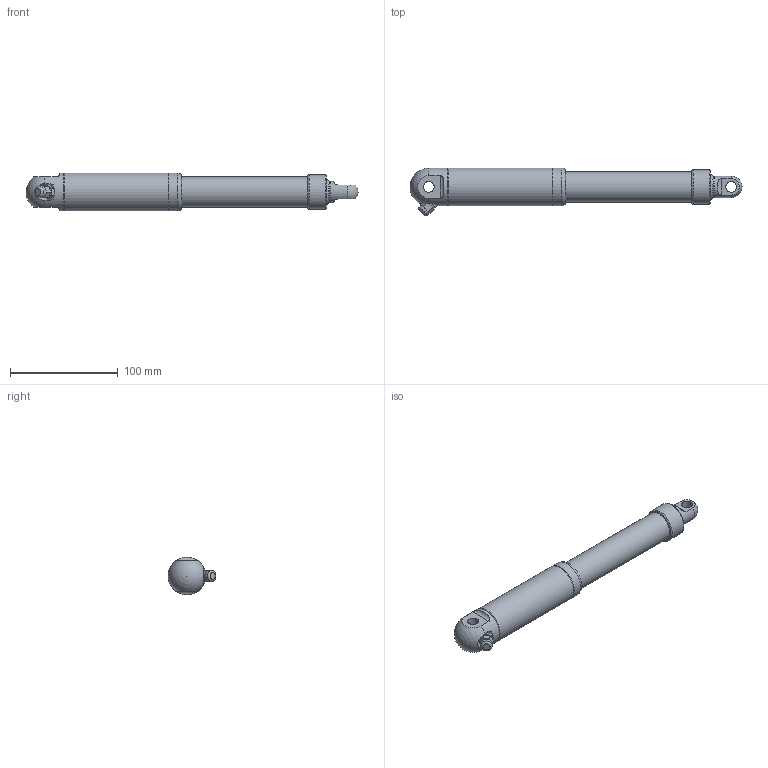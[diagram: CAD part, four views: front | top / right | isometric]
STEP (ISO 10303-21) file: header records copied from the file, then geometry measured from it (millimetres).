
FILE_DESCRIPTION(/* description */ ('STEP AP214'),/* implementation_level */ '2;1');
FILE_NAME(/* name */ '350100-273230+920000_0-0',/* time_stamp */ '2025-10-13T12:31:12+02:00',/* author */ ('License CC BY-ND 4.0'),/* organization */ ('CADENAS'),/* preprocessor_version */ 'ST-DEVELOPER v19.3',/* originating_system */ 'PARTsolutions',/* authorisation */ ' ');
FILE_SCHEMA (('AUTOMOTIVE_DESIGN {1 0 10303 214 3 1 1}'));
Length unit declared in the file: millimetre
Products named in the file (6): 350100-273230+920000_0-0; 350100273+209---(2_b)---(Shortened view 0); 35010092---(2_p)---(Shortened view 0); 352---(bp); 3590---(r); 35302+9---(bb)
Assembly tree (5 placements, depth 2):
  350100-273230+920000_0-0
    350100273+209---(2_b)---(Shortened view 0)
    35010092---(2_p)---(Shortened view 0)
    352---(bp)
    3590---(r)
    35302+9---(bb)
Bounding box: 308.5 x 44.4 x 35 mm (x, y, z)
Volume: 207648.9 mm3; surface area: 56916.4 mm2
Topology: 5 solids, 5 shells, 72 faces, 151 edges, 98 vertices
Faces by surface type: plane 36, cylinder 22, cone 8, torus 4, sphere 2
Full cylindrical faces by diameter (mm): 4 x1, 10 x3, 10.7 x1, 20 x4, 23.7 x1, 24 x1, 28 x1, 28.2 x1, 32 x1, 35 x3
Entity records: 2175 total; most frequent: CARTESIAN_POINT 350, DIRECTION 314, ORIENTED_EDGE 220, AXIS2_PLACEMENT_3D 133, EDGE_LOOP 118, FACE_BOUND 118, EDGE_CURVE 110, VERTEX_POINT 88
